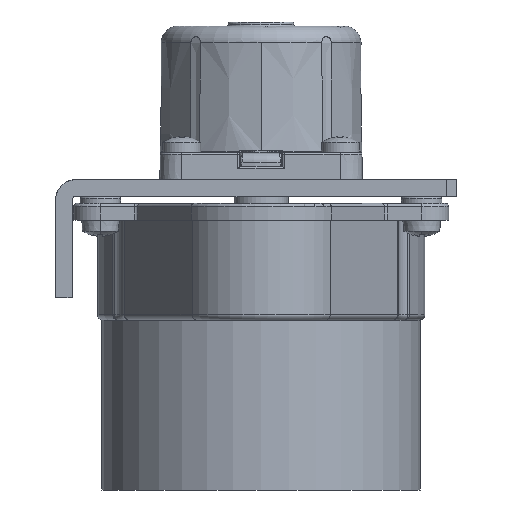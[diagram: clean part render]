
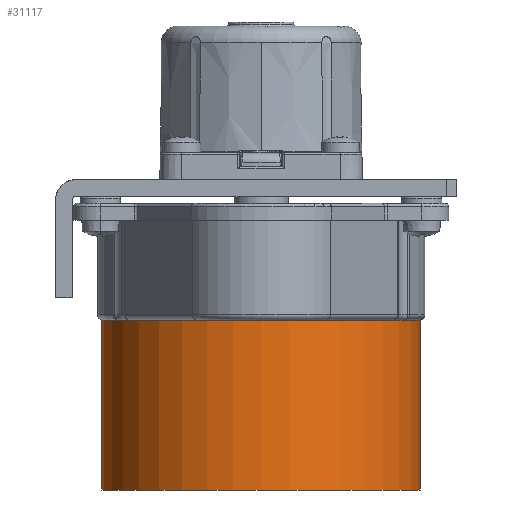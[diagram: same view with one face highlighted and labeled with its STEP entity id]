
A CAD part, front view. The second image highlights one B-rep face of the part: STEP entity #31117.
In plain terms, the highlighted cylindrical face has radius 23.6 mm (diameter 47.2 mm), a partial arc.
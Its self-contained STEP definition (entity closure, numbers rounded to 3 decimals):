
#21 = CARTESIAN_POINT ( 'NONE',  ( 98.869, 72.855, -26.158 ) ) ;
#80 = EDGE_CURVE ( 'NONE', #16584, #1731, #13138, .T. ) ;
#789 = DIRECTION ( 'NONE',  ( -1., 0., 0. ) ) ;
#1077 = AXIS2_PLACEMENT_3D ( 'NONE', #19780, #11981, #4451 ) ;
#1468 = EDGE_CURVE ( 'NONE', #28484, #16584, #26396, .T. ) ;
#1731 = VERTEX_POINT ( 'NONE', #4067 ) ;
#4067 = CARTESIAN_POINT ( 'NONE',  ( 51.669, 72.855, -26.158 ) ) ;
#4451 = DIRECTION ( 'NONE',  ( -1., 0., 0. ) ) ;
#5976 = DIRECTION ( 'NONE',  ( 0., 0., -1. ) ) ;
#7555 = AXIS2_PLACEMENT_3D ( 'NONE', #31829, #5976, #789 ) ;
#11185 = CARTESIAN_POINT ( 'NONE',  ( 98.869, 72.855, -0.958 ) ) ;
#11684 = EDGE_LOOP ( 'NONE', ( #29591, #27979, #12980, #24798 ) ) ;
#11820 = AXIS2_PLACEMENT_3D ( 'NONE', #13384, #13493, #23298 ) ;
#11981 = DIRECTION ( 'NONE',  ( 0., 0., 1. ) ) ;
#12980 = ORIENTED_EDGE ( 'NONE', *, *, #80, .T. ) ;
#13138 = CIRCLE ( 'NONE', #1077, 23.6 ) ;
#13384 = CARTESIAN_POINT ( 'NONE',  ( 75.269, 72.855, -0.958 ) ) ;
#13433 = CARTESIAN_POINT ( 'NONE',  ( 51.669, 72.855, -0.958 ) ) ;
#13493 = DIRECTION ( 'NONE',  ( 0., 0., -1. ) ) ;
#16584 = VERTEX_POINT ( 'NONE', #25101 ) ;
#17266 = CARTESIAN_POINT ( 'NONE',  ( 51.669, 72.855, -26.158 ) ) ;
#19780 = CARTESIAN_POINT ( 'NONE',  ( 75.269, 72.855, -26.158 ) ) ;
#20774 = DIRECTION ( 'NONE',  ( 0., 0., -1. ) ) ;
#21170 = EDGE_CURVE ( 'NONE', #27348, #1731, #25624, .T. ) ;
#22687 = CIRCLE ( 'NONE', #11820, 23.6 ) ;
#23298 = DIRECTION ( 'NONE',  ( -1., 0., 0. ) ) ;
#24436 = EDGE_CURVE ( 'NONE', #27348, #28484, #22687, .T. ) ;
#24798 = ORIENTED_EDGE ( 'NONE', *, *, #21170, .F. ) ;
#24825 = DIRECTION ( 'NONE',  ( 0., 0., -1. ) ) ;
#24947 = FACE_OUTER_BOUND ( 'NONE', #11684, .T. ) ;
#25101 = CARTESIAN_POINT ( 'NONE',  ( 98.869, 72.855, -26.158 ) ) ;
#25624 = LINE ( 'NONE', #17266, #33323 ) ;
#26396 = LINE ( 'NONE', #21, #29653 ) ;
#27348 = VERTEX_POINT ( 'NONE', #13433 ) ;
#27979 = ORIENTED_EDGE ( 'NONE', *, *, #1468, .T. ) ;
#28484 = VERTEX_POINT ( 'NONE', #11185 ) ;
#29591 = ORIENTED_EDGE ( 'NONE', *, *, #24436, .T. ) ;
#29653 = VECTOR ( 'NONE', #20774, 1000. ) ;
#31117 = ADVANCED_FACE ( 'NONE', ( #24947 ), #32632, .T. ) ;
#31829 = CARTESIAN_POINT ( 'NONE',  ( 75.269, 72.855, -26.158 ) ) ;
#32632 = CYLINDRICAL_SURFACE ( 'NONE', #7555, 23.6 ) ;
#33323 = VECTOR ( 'NONE', #24825, 1000. ) ;
